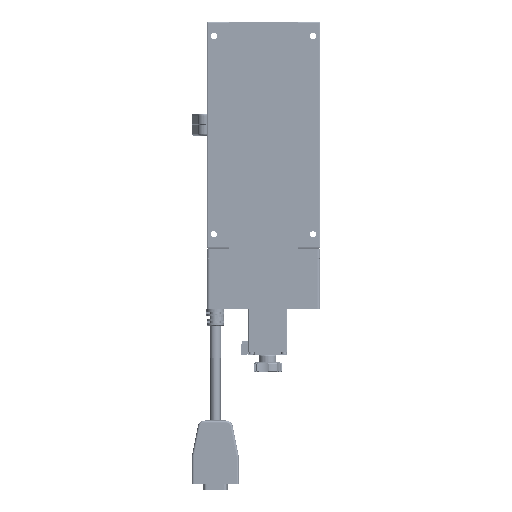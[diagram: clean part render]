
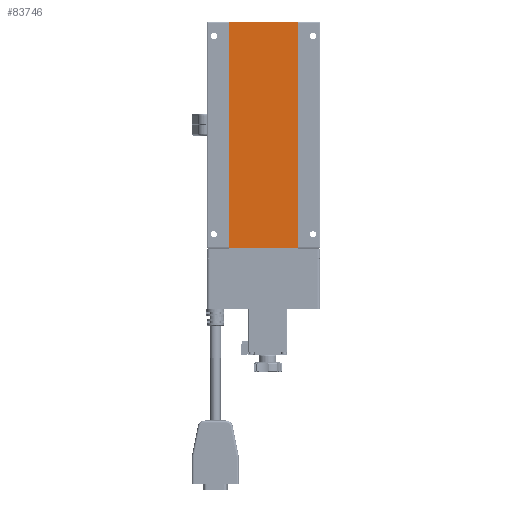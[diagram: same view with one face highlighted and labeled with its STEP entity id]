
A CAD part, front view. The second image highlights one B-rep face of the part: STEP entity #83746.
In plain terms, the highlighted planar face has unit normal (0, -1, 0).
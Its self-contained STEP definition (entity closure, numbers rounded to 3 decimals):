
#10843 = LINE ( 'NONE', #69642, #51783 ) ;
#11405 = VERTEX_POINT ( 'NONE', #126347 ) ;
#15372 = DIRECTION ( 'NONE',  ( -1., 0., 0. ) ) ;
#15480 = EDGE_LOOP ( 'NONE', ( #25525, #115833, #84408, #127192 ) ) ;
#16761 = CARTESIAN_POINT ( 'NONE',  ( -24.3, 0.5, 159.8 ) ) ;
#18281 = CARTESIAN_POINT ( 'NONE',  ( -24.3, 0.5, 159.8 ) ) ;
#25525 = ORIENTED_EDGE ( 'NONE', *, *, #82841, .T. ) ;
#36129 = CARTESIAN_POINT ( 'NONE',  ( 24.3, 0.5, 0.2 ) ) ;
#37597 = LINE ( 'NONE', #187207, #114106 ) ;
#42033 = DIRECTION ( 'NONE',  ( -1., 0., 0. ) ) ;
#51783 = VECTOR ( 'NONE', #155006, 1000. ) ;
#60270 = LINE ( 'NONE', #18281, #101175 ) ;
#60514 = EDGE_CURVE ( 'NONE', #219996, #11405, #76365, .T. ) ;
#69642 = CARTESIAN_POINT ( 'NONE',  ( -24.3, 0.5, 0.2 ) ) ;
#76365 = LINE ( 'NONE', #184066, #230535 ) ;
#82841 = EDGE_CURVE ( 'NONE', #196139, #257758, #10843, .T. ) ;
#83485 = AXIS2_PLACEMENT_3D ( 'NONE', #16761, #227917, #15372 ) ;
#83746 = ADVANCED_FACE ( 'NONE', ( #211042 ), #273979, .F. ) ;
#84408 = ORIENTED_EDGE ( 'NONE', *, *, #60514, .T. ) ;
#101175 = VECTOR ( 'NONE', #42033, 1000. ) ;
#107382 = CARTESIAN_POINT ( 'NONE',  ( -24.3, 0.5, 159.8 ) ) ;
#114106 = VECTOR ( 'NONE', #272460, 1000. ) ;
#115833 = ORIENTED_EDGE ( 'NONE', *, *, #263701, .T. ) ;
#126347 = CARTESIAN_POINT ( 'NONE',  ( 24.3, 0.5, 159.8 ) ) ;
#127192 = ORIENTED_EDGE ( 'NONE', *, *, #176445, .T. ) ;
#129425 = CARTESIAN_POINT ( 'NONE',  ( -24.3, 0.5, 0.2 ) ) ;
#155006 = DIRECTION ( 'NONE',  ( 0., 0., -1. ) ) ;
#176445 = EDGE_CURVE ( 'NONE', #11405, #196139, #60270, .T. ) ;
#179919 = DIRECTION ( 'NONE',  ( 0., 0., 1. ) ) ;
#184066 = CARTESIAN_POINT ( 'NONE',  ( 24.3, 0.5, 0.2 ) ) ;
#187207 = CARTESIAN_POINT ( 'NONE',  ( -24.3, 0.5, 0.2 ) ) ;
#196139 = VERTEX_POINT ( 'NONE', #107382 ) ;
#211042 = FACE_OUTER_BOUND ( 'NONE', #15480, .T. ) ;
#219996 = VERTEX_POINT ( 'NONE', #36129 ) ;
#227917 = DIRECTION ( 'NONE',  ( 0., 1., 0. ) ) ;
#230535 = VECTOR ( 'NONE', #179919, 1000. ) ;
#257758 = VERTEX_POINT ( 'NONE', #129425 ) ;
#263701 = EDGE_CURVE ( 'NONE', #257758, #219996, #37597, .T. ) ;
#272460 = DIRECTION ( 'NONE',  ( 1., 0., 0. ) ) ;
#273979 = PLANE ( 'NONE',  #83485 ) ;
